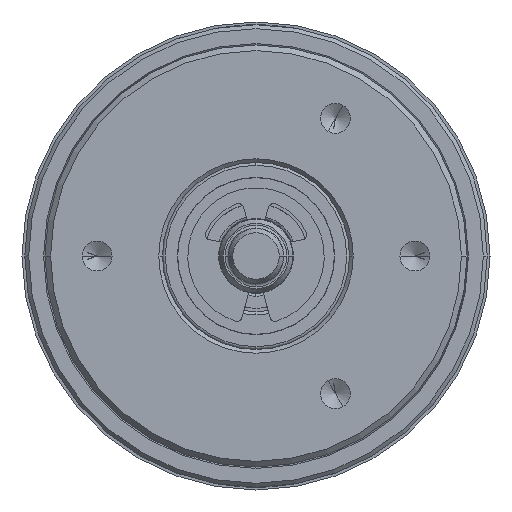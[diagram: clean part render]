
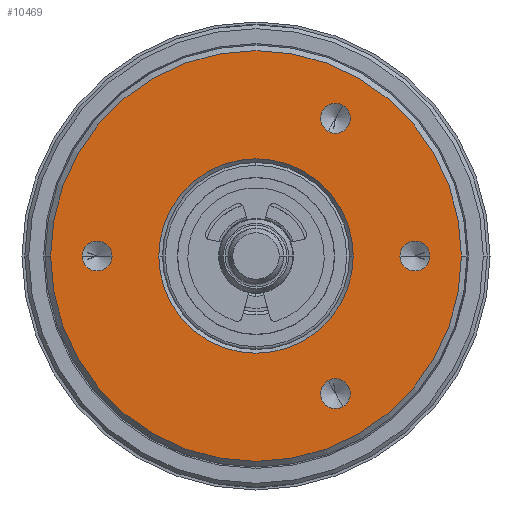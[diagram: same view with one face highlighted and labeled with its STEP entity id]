
A CAD part, left-side view. The second image highlights one B-rep face of the part: STEP entity #10469.
In plain terms, the highlighted planar face has unit normal (-1, 0, 0).
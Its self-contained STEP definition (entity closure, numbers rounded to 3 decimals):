
#213=CARTESIAN_POINT('',(0.,0.,0.));
#214=DIRECTION('',(1.,0.,0.));
#215=DIRECTION('',(0.,1.,0.));
#216=AXIS2_PLACEMENT_3D('',#213,#214,#215);
#221=CARTESIAN_POINT('',(0.,0.,0.));
#222=DIRECTION('',(-1.,0.,0.));
#223=DIRECTION('',(0.,1.,0.));
#224=AXIS2_PLACEMENT_3D('',#221,#222,#223);
#229=CARTESIAN_POINT('',(0.,8.5,0.));
#230=DIRECTION('',(-1.,0.,0.));
#231=DIRECTION('',(0.,1.,0.));
#232=AXIS2_PLACEMENT_3D('',#229,#230,#231);
#237=CARTESIAN_POINT('',(0.,8.5,0.));
#238=DIRECTION('',(-1.,0.,0.));
#239=DIRECTION('',(0.,-1.,0.));
#240=AXIS2_PLACEMENT_3D('',#237,#238,#239);
#245=CARTESIAN_POINT('',(0.,-4.25,7.361));
#246=DIRECTION('',(-1.,0.,0.));
#247=DIRECTION('',(0.,-0.5,0.866));
#248=AXIS2_PLACEMENT_3D('',#245,#246,#247);
#253=CARTESIAN_POINT('',(0.,-4.25,7.361));
#254=DIRECTION('',(-1.,0.,0.));
#255=DIRECTION('',(0.,0.5,-0.866));
#256=AXIS2_PLACEMENT_3D('',#253,#254,#255);
#261=CARTESIAN_POINT('',(0.,-8.5,0.));
#262=DIRECTION('',(-1.,0.,0.));
#263=DIRECTION('',(0.,-1.,0.));
#264=AXIS2_PLACEMENT_3D('',#261,#262,#263);
#269=CARTESIAN_POINT('',(0.,-8.5,0.));
#270=DIRECTION('',(-1.,0.,0.));
#271=DIRECTION('',(0.,1.,0.));
#272=AXIS2_PLACEMENT_3D('',#269,#270,#271);
#277=CARTESIAN_POINT('',(0.,-4.25,-7.361));
#278=DIRECTION('',(-1.,0.,0.));
#279=DIRECTION('',(0.,-0.5,-0.866));
#280=AXIS2_PLACEMENT_3D('',#277,#278,#279);
#285=CARTESIAN_POINT('',(0.,-4.25,-7.361));
#286=DIRECTION('',(-1.,0.,0.));
#287=DIRECTION('',(0.,0.5,0.866));
#288=AXIS2_PLACEMENT_3D('',#285,#286,#287);
#300=CARTESIAN_POINT('',(0.,0.,0.));
#301=DIRECTION('',(-1.,0.,0.));
#302=DIRECTION('',(0.,1.,0.));
#303=AXIS2_PLACEMENT_3D('',#300,#301,#302);
#315=CARTESIAN_POINT('',(0.,0.,0.));
#316=DIRECTION('',(1.,0.,0.));
#317=DIRECTION('',(0.,1.,0.));
#318=AXIS2_PLACEMENT_3D('',#315,#316,#317);
#8860=CARTESIAN_POINT('',(0.,5.2,0.));
#8861=CARTESIAN_POINT('',(0.,-5.2,0.));
#8862=VERTEX_POINT('',#8860);
#8863=VERTEX_POINT('',#8861);
#8864=CARTESIAN_POINT('',(0.,10.985,0.));
#8866=VERTEX_POINT('',#8864);
#8868=CARTESIAN_POINT('',(0.,-10.985,0.));
#8870=VERTEX_POINT('',#8868);
#8890=CARTESIAN_POINT('',(0.,9.3,0.));
#8891=CARTESIAN_POINT('',(0.,7.7,0.));
#8892=VERTEX_POINT('',#8890);
#8893=VERTEX_POINT('',#8891);
#8900=CARTESIAN_POINT('',(0.,-4.65,8.054));
#8901=CARTESIAN_POINT('',(0.,-3.85,6.668));
#8902=VERTEX_POINT('',#8900);
#8903=VERTEX_POINT('',#8901);
#8916=CARTESIAN_POINT('',(0.,-9.3,0.));
#8917=CARTESIAN_POINT('',(0.,-7.7,0.));
#8918=VERTEX_POINT('',#8916);
#8919=VERTEX_POINT('',#8917);
#8920=CARTESIAN_POINT('',(0.,-4.65,-8.054));
#8921=CARTESIAN_POINT('',(0.,-3.85,-6.668));
#8922=VERTEX_POINT('',#8920);
#8923=VERTEX_POINT('',#8921);
#10430=CARTESIAN_POINT('',(0.,0.,0.));
#10431=DIRECTION('',(1.,0.,0.));
#10432=DIRECTION('',(0.,-1.,0.));
#10433=AXIS2_PLACEMENT_3D('',#10430,#10431,#10432);
#10434=PLANE('',#10433);
#10436=ORIENTED_EDGE('',*,*,#10435,.F.);
#10438=ORIENTED_EDGE('',*,*,#10437,.T.);
#10439=EDGE_LOOP('',(#10436,#10438));
#10440=FACE_OUTER_BOUND('',#10439,.F.);
#10441=ORIENTED_EDGE('',*,*,#10388,.F.);
#10442=ORIENTED_EDGE('',*,*,#10423,.T.);
#10443=EDGE_LOOP('',(#10441,#10442));
#10444=FACE_BOUND('',#10443,.F.);
#10446=ORIENTED_EDGE('',*,*,#10445,.T.);
#10448=ORIENTED_EDGE('',*,*,#10447,.T.);
#10449=EDGE_LOOP('',(#10446,#10448));
#10450=FACE_BOUND('',#10449,.F.);
#10452=ORIENTED_EDGE('',*,*,#10451,.T.);
#10454=ORIENTED_EDGE('',*,*,#10453,.T.);
#10455=EDGE_LOOP('',(#10452,#10454));
#10456=FACE_BOUND('',#10455,.F.);
#10458=ORIENTED_EDGE('',*,*,#10457,.T.);
#10460=ORIENTED_EDGE('',*,*,#10459,.T.);
#10461=EDGE_LOOP('',(#10458,#10460));
#10462=FACE_BOUND('',#10461,.F.);
#10464=ORIENTED_EDGE('',*,*,#10463,.T.);
#10466=ORIENTED_EDGE('',*,*,#10465,.T.);
#10467=EDGE_LOOP('',(#10464,#10466));
#10468=FACE_BOUND('',#10467,.F.);
#10469=ADVANCED_FACE('',(#10440,#10444,#10450,#10456,#10462,#10468),#10434,.F.);
#217=CIRCLE('',#216,5.2);
#225=CIRCLE('',#224,5.2);
#233=CIRCLE('',#232,0.8);
#241=CIRCLE('',#240,0.8);
#249=CIRCLE('',#248,0.8);
#257=CIRCLE('',#256,0.8);
#265=CIRCLE('',#264,0.8);
#273=CIRCLE('',#272,0.8);
#281=CIRCLE('',#280,0.8);
#289=CIRCLE('',#288,0.8);
#304=CIRCLE('',#303,10.985);
#319=CIRCLE('',#318,10.985);
#10388=EDGE_CURVE('',#8862,#8863,#217,.T.);
#10423=EDGE_CURVE('',#8862,#8863,#225,.T.);
#10435=EDGE_CURVE('',#8866,#8870,#304,.T.);
#10437=EDGE_CURVE('',#8866,#8870,#319,.T.);
#10445=EDGE_CURVE('',#8892,#8893,#233,.T.);
#10447=EDGE_CURVE('',#8893,#8892,#241,.T.);
#10451=EDGE_CURVE('',#8902,#8903,#249,.T.);
#10453=EDGE_CURVE('',#8903,#8902,#257,.T.);
#10457=EDGE_CURVE('',#8918,#8919,#265,.T.);
#10459=EDGE_CURVE('',#8919,#8918,#273,.T.);
#10463=EDGE_CURVE('',#8922,#8923,#281,.T.);
#10465=EDGE_CURVE('',#8923,#8922,#289,.T.);
